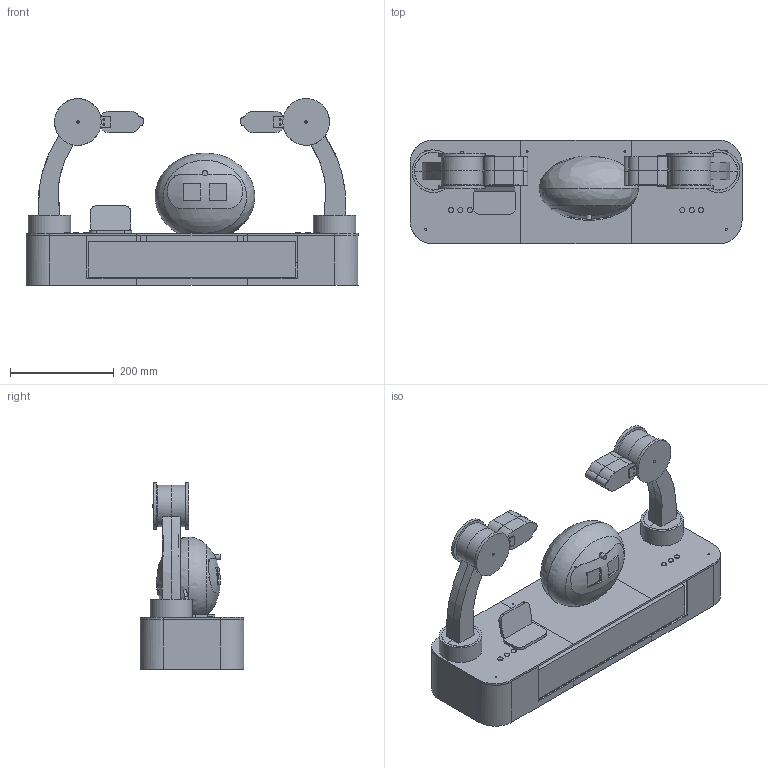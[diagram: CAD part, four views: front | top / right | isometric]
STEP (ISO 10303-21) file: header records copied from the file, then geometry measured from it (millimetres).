
FILE_DESCRIPTION(('Base splice and hand/dowel native rebuild. P1 head/arm retained as imported base geometry.'),'2;1');
FILE_NAME('fold_wing_v8_P2_assembly.step','',(''),(''),'SolidCraft','SolidCraft','');
FILE_SCHEMA(('AP242_MANAGED_MODEL_BASED_3D_ENGINEERING_MIM_LF { 1 0 10303 442 1 1 4 }'));
Length unit declared in the file: millimetre
Products named in the file (89): P1_closed_base; fold_wing_v7_P1_assembly; PILL_BASE_TRAY_1; PILL_BASE_TRAY_1_part; PILL_BASE_LID_1; PILL_BASE_LID_1_part; PILL_BASE_TRAY_2; PILL_BASE_TRAY_2_part; PILL_BASE_LID_2; PILL_BASE_LID_2_part; PILL_BASE_TRAY_3; PILL_BASE_TRAY_3_part; PILL_BASE_LID_3; PILL_BASE_LID_3_part; SEAM_PLATE_1; SEAM_PLATE_1_part; SEAM_PLATE_2; SEAM_PLATE_2_part; BA_R9_ENVELOPE; BA_R9_ENVELOPE_part; PEBBLE_HEAD_FRONT_TRIAL; PEBBLE_HEAD_FRONT_TRIAL_part; PEBBLE_HEAD_REAR_TRIAL; PEBBLE_HEAD_REAR_TRIAL_part; CAPSULE_VISOR_TRIAL; CAPSULE_VISOR_TRIAL_part; EYE_1_DISPLAY_ONLY; EYE_1_DISPLAY_ONLY_part; EYE_2_DISPLAY_ONLY; EYE_2_DISPLAY_ONLY_part; CAMERA_LENS_TRIAL; CAMERA_LENS_TRIAL_part; JETSON_RESERVED_ZONE; JETSON_RESERVED_ZONE_part; POWER_RESERVED_ZONE; POWER_RESERVED_ZONE_part; BATTERY_RESERVED_ZONE; BATTERY_RESERVED_ZONE_part; L_ROUND_YAW_COLLAR_TRIAL; L_ROUND_YAW_COLLAR_TRIAL_part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
Assembly tree (88 placements, depth 5):
  P1_closed_base
    P1_closed_base
      fold_wing_v7_P1_assembly
        PILL_BASE_TRAY_1
          PILL_BASE_TRAY_1_part
        PILL_BASE_LID_1
          PILL_BASE_LID_1_part
        PILL_BASE_TRAY_2
          PILL_BASE_TRAY_2_part
        PILL_BASE_LID_2
          PILL_BASE_LID_2_part
        PILL_BASE_TRAY_3
          PILL_BASE_TRAY_3_part
        PILL_BASE_LID_3
          PILL_BASE_LID_3_part
        SEAM_PLATE_1
          SEAM_PLATE_1_part
        SEAM_PLATE_2
          SEAM_PLATE_2_part
        BA_R9_ENVELOPE
          BA_R9_ENVELOPE_part
        PEBBLE_HEAD_FRONT_TRIAL
          PEBBLE_HEAD_FRONT_TRIAL_part
        PEBBLE_HEAD_REAR_TRIAL
          PEBBLE_HEAD_REAR_TRIAL_part
        CAPSULE_VISOR_TRIAL
          CAPSULE_VISOR_TRIAL_part
        EYE_1_DISPLAY_ONLY
          EYE_1_DISPLAY_ONLY_part
        EYE_2_DISPLAY_ONLY
          EYE_2_DISPLAY_ONLY_part
        CAMERA_LENS_TRIAL
          CAMERA_LENS_TRIAL_part
        JETSON_RESERVED_ZONE
          JETSON_RESERVED_ZONE_part
        POWER_RESERVED_ZONE
          POWER_RESERVED_ZONE_part
        BATTERY_RESERVED_ZONE
          BATTERY_RESERVED_ZONE_part
        L_ROUND_YAW_COLLAR_TRIAL
          L_ROUND_YAW_COLLAR_TRIAL_part
        L_YAW_SERVO_INSIDE_BASE
          L_YAW_SERVO_INSIDE_BASE_part
        L_CURVED_ARM_CORE_FRONT
          L_CURVED_ARM_CORE_FRONT_part
        L_CURVED_ARM_CORE_REAR
          L_CURVED_ARM_CORE_REAR_part
        L_PITCH_SERVO_EMBEDDED
          L_PITCH_SERVO_EMBEDDED_part
        L_SHORT_SERVO_SHAFT_TRIAL
          L_SHORT_SERVO_SHAFT_TRIAL_part
        L_ACTUAL_CROSS_HORN_PLACEHOLDER
          L_ACTUAL_CROSS_HORN_PLACEHOLDER_part
        L_F625ZZ_BEARING
          L_F625ZZ_BEARING_part
        L_FIXED_SUPPORT_STUB_TRIAL
          L_FIXED_SUPPORT_STUB_TRIAL_part
        L_TOUCH_0
          L_TOUCH_0_part
        L_TOUCH_1
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Bounding box: 640 x 200 x 360 mm (x, y, z)
Volume: 5643255.6 mm3; surface area: 1588290.9 mm2
Topology: 53 solids, 53 shells, 1052 faces, 3050 edges, 2165 vertices
Faces by surface type: plane 717, cylinder 291, bspline 44
Full cylindrical faces by diameter (mm): 3.2 x2, 3.4 x76, 4 x12, 4.4 x16, 4.9 x2, 5 x4, 5.3 x2, 6 x2, 8 x2, 9 x2, 10 x7, 16 x2, 16.3 x2, 18 x2, 18.2 x2, 73 x2, 80 x4, 82 x2, 90 x4
Entity records: 32226 total; most frequent: CARTESIAN_POINT 10716, ORIENTED_EDGE 6092, EDGE_CURVE 3046, VERTEX_POINT 2165, LINE 1725, EDGE_LOOP 1327, FACE_BOUND 1327, ADVANCED_FACE 1052
